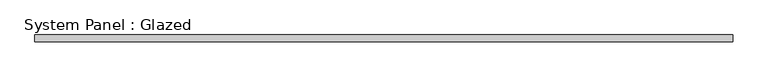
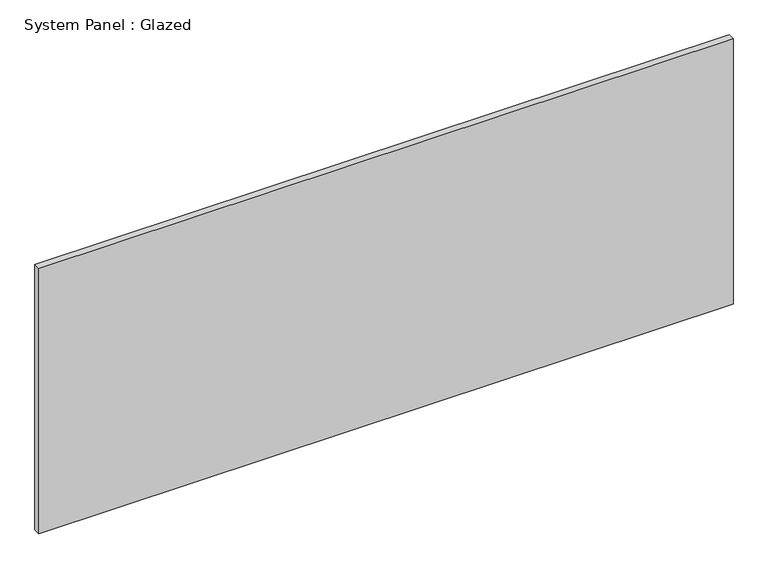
"""IFC4 building model written with IfcOpenShell, lengths in millimetres: plate geometry, System Panel : Glazed."""

from ifc_helpers import new_model, si_unit, origin, origin_with_axes, place, context, project, spatial, polyline, outline, extrude, source, transform, mapped, element, save


def system_panel_glazed_ceae509a(model_context):
    return source(origin(), model_context, "Body", "SweptSolid", [
        extrude(outline(polyline([(1319.7377931, 19.05), (-1319.7377931, 19.05), (-1319.7377931, 44.45), (1319.7377931, 44.45), (1319.7377931, 19.05)])), origin_with_axes(), (0.0, 0.0, 1.0), 1066.8),
    ])


if __name__ == "__main__":
    model = new_model("IFC4")
    model_context = context("Model", 3, world=origin())
    ifc_project = project(units=[si_unit("LENGTHUNIT", "METRE", prefix="MILLI")], contexts=[model_context])
    site = spatial("IfcSite", under=ifc_project)
    building = spatial("IfcBuilding", under=site)
    placement = place(None, origin())
    system_panel_glazed_shape = system_panel_glazed_ceae509a(model_context)
    element("IfcPlate", 1, ObjectType="System Panel : Glazed", at=placement, inside=building, context=model_context, shape_type="MappedRepresentation", body=[
        mapped(system_panel_glazed_shape, transform((0.0, 0.0, 0.0), x_axis=(1.0, 0.0, 0.0), y_axis=(0.0, 1.0, 0.0), z_axis=(0.0, 0.0, 1.0))),
    ])
    save(model, "model.ifc")
